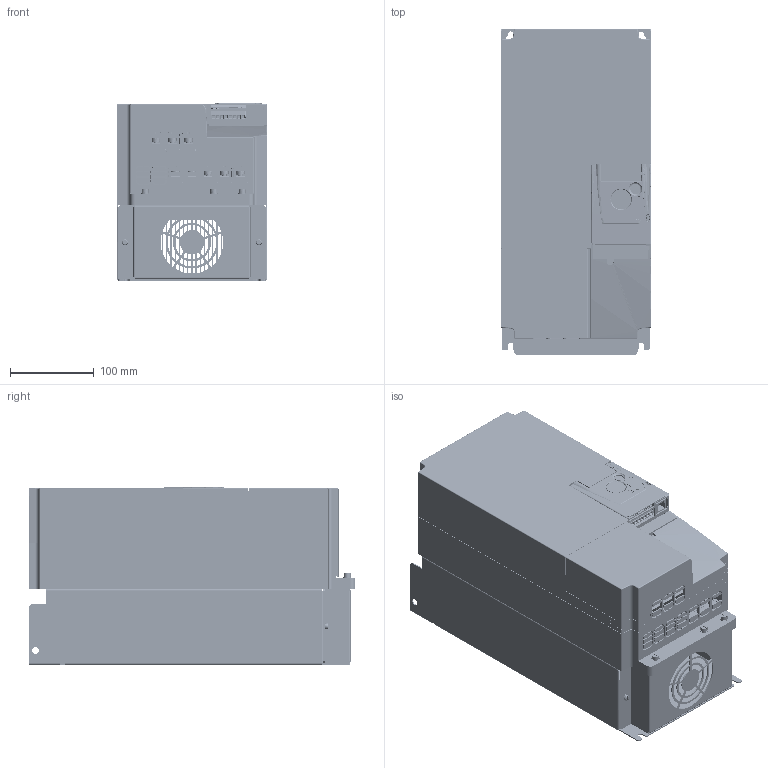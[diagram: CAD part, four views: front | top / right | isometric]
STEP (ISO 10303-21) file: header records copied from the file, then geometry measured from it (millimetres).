
FILE_DESCRIPTION((''),'2;1');
FILE_NAME('SIMPLIFIED_ASM_1_1_ASM','2021-02-01T10:15:47',('danae.lavaud'),(''),'CREO PARAMETRIC BY PTC INC, 2018260','CREO PARAMETRIC BY PTC INC, 2018260','');
FILE_SCHEMA(('CONFIG_CONTROL_DESIGN'));
Length unit declared in the file: inch
Products named in the file (69): PRT0005_1_1_1_1; PRT0006_1_1_1_1; RJ45_406541-1_AMP__MIG17_1_1__2; 1729186_MIG17_1_1_1_1_1_1_1_1_1; DINKLE_ELK508S_3P_MIG17_1_1_1_3; DINKLE_ELK508S_4P_MIG17_1_1_1_3; ST00096_MIG17_ASM_1_1_ASM_1_A_2_ASM; AAV4866001_MIG17_1_1_1_1_1_1_1_; AAV4865801_MIG17_1_1_1_1_1_1_1_; AAV9062201_MIG17_1_1_2_1_1_1__1; AAV9062201_MIG17_1_1_2_2_1_1__1; AAV9062201_MIG17_1_1_2_ASM_1__2_ASM; AAV4865901_MIG17_1_1_1_1_1_1_1_; AAV8876901_MIG17_1_1_1_1_1_1_1_; AAV8750901_1_1_1_1_1_1_1_1_1; DOOR_FOR_SCHNEIDER_ASM_1_1_1__2; S1A3914301_1_1_1_1_1_1_1_1_1; HMI_LABEL_1_1_1_1_1_1_1_1_1; S1A4256601_1_1_2_1_1_1_1_1_1_1_; S1A4256601_1_1_2_2_1_1_1_1_1_1_; S1A4256601_1_1_2_ASM_1_ASM_1__2_ASM; NHA8469201_1_1_1_1_1_1_1_1_1; S1A4174701_ASM_1_1_ASM_1_ASM__2_ASM; ASM0002_ASM_1_ASM_1_ASM_1_ASM_2; GDE1365001_1_1_1_1_1; GDE1364201_1_1_1_1_1; ATV310EX_POWER_PCB_22KW_1_1_1_1; ATV310EX_TB_5PIN-HOUSING_7_1_1_; ATV310EX_TB_LM_1_1_1_1_1_1; ATV310EX_TB_TERMINAL_39_1-84521; ATV310EX_TB_LS_8_1_1_1_1_1; ATV310EX_TB_DD_3_1_1_1_1_1; ATV310EX_TB_ZHLS_ASM_3_ASM_1_1__ASM; ATV310EX_PWR_TB_5P_S6_SUB_ASM_2_ASM; ATV310EX_PWR_TB_5P_S6_ASM_1_1_A_ASM; ATV310EX_POWER_PCBA_ASM_1_1_ASM_ASM; ATV310EX_FAN_SUPPORT_S6_1_1_1_1; GDE1364501_ASM_1_1_ASM_1_ASM_1__ASM; ATV310EX_FAN_ASSEMBLY_S6_ASM__1_ASM; GDE1363601_1_1_1_1_1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
Assembly tree (100 placements, depth 8):
  SIMPLIFIED_ASM_1_1_ASM
    ATV310EX_S6_0918_SIMPL_ASM_1_ASM
      ASM0003_ASM_1_ASM_1_ASM
        PRT0005_1_1_1_1
        PRT0006_1_1_1_1
        RJ45_406541-1_AMP__MIG17_1_1__2
        ST00096_MIG17_ASM_1_1_ASM_1_A_2_ASM
          1729186_MIG17_1_1_1_1_1_1_1_1_1
          DINKLE_ELK508S_3P_MIG17_1_1_1_3
          DINKLE_ELK508S_4P_MIG17_1_1_1_3
        S1A4174701_ASM_1_1_ASM_1_ASM__2_ASM
          AAV4866001_MIG17_1_1_1_1_1_1_1_
          AAV4865801_MIG17_1_1_1_1_1_1_1_
          AAV9062201_MIG17_1_1_2_ASM_1__2_ASM
            AAV9062201_MIG17_1_1_2_1_1_1__1
            AAV9062201_MIG17_1_1_2_2_1_1__1
          AAV4865901_MIG17_1_1_1_1_1_1_1_
          AAV8876901_MIG17_1_1_1_1_1_1_1_
          AAV8750901_1_1_1_1_1_1_1_1_1
          DOOR_FOR_SCHNEIDER_ASM_1_1_1__2
          S1A3914301_1_1_1_1_1_1_1_1_1
          HMI_LABEL_1_1_1_1_1_1_1_1_1
          S1A4256601_1_1_2_ASM_1_ASM_1__2_ASM
            S1A4256601_1_1_2_1_1_1_1_1_1_1_
            S1A4256601_1_1_2_2_1_1_1_1_1_1_
          NHA8469201_1_1_1_1_1_1_1_1_1
        ASM0002_ASM_1_ASM_1_ASM_1_ASM_2
        GDE1365001_1_1_1_1_1
        GDE1364201_1_1_1_1_1
        ATV310EX_POWER_PCBA_ASM_1_1_ASM_ASM
          ATV310EX_POWER_PCB_22KW_1_1_1_1
          ATV310EX_PWR_TB_5P_S6_ASM_1_1_A_ASM
            ATV310EX_PWR_TB_5P_S6_SUB_ASM_2_ASM
              ATV310EX_TB_5PIN-HOUSING_7_1_1_
              ATV310EX_TB_LM_1_1_1_1_1_1  x5
              ATV310EX_TB_TERMINAL_39_1-84521  x5
              ATV310EX_TB_ZHLS_ASM_3_ASM_1_1__ASM  x5
                ATV310EX_TB_LS_8_1_1_1_1_1
                ATV310EX_TB_DD_3_1_1_1_1_1
        ATV310EX_FAN_ASSEMBLY_S6_ASM__1_ASM
          GDE1364501_ASM_1_1_ASM_1_ASM_1__ASM
            ATV310EX_FAN_SUPPORT_S6_1_1_1_1
        GDE1363601_1_1_1_1_1
        ATV310EX_FILTER_PCBA_EMC_S6_A_1_ASM
          ATV310EX_FILTER_PCB_22KW_1_1_1_
          ATV310EX_PWR_TB_3P_S6_ASM_1_1_A_ASM
            ATV310EX_PWR_TB_3P_S6_SUB_ASM_2_ASM
              ATV310EX_TB_3PIN-HOUSING-349543
              ATV310EX_TB_LM_1_1_1_1_1  x3
              ATV310EX_TB_DD_3_1_1_1_1  x3
              ATV310EX_TB_LS_8_1_1_1_1  x3
        ATV310EX_FILTER_WO_EMC_S6_ASM_2_ASM
          ATV310EX_PWR_TB_3P_S6_ASM_1_ASM_ASM
            ATV310EX_PWR_TB_3P_S6_SUB_ASM_1_ASM
              ATV310EX_TB_3PIN-HOUSING-457153
              ATV310EX_TB_TERMINAL_39_-147061  x3
              ATV310EX_TB_LM_1_1_1_1_1  x3
              ATV310EX_TB_DD_3_1_1_1_1  x3
              ATV310EX_TB_LS_8_1_1_1_1  x3
        GDE1363901_1_1_1_1_1
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Bounding box: 180.18 x 390.03 x 211.85 mm (x, y, z)
Volume: 3622010 mm3; surface area: 2178777 mm2
Topology: 83 solids, 103 shells, 6782 faces, 20450 edges, 13841 vertices
Faces by surface type: plane 5110, cylinder 976, cone 420, bspline 167, torus 72, sphere 19, extrusion 18
Entity records: 186738 total; most frequent: CARTESIAN_POINT 43740, ORIENTED_EDGE 31084, DIRECTION 27341, EDGE_CURVE 15546, VECTOR 12197, LINE 12179, VERTEX_POINT 10260, AXIS2_PLACEMENT_3D 7572
